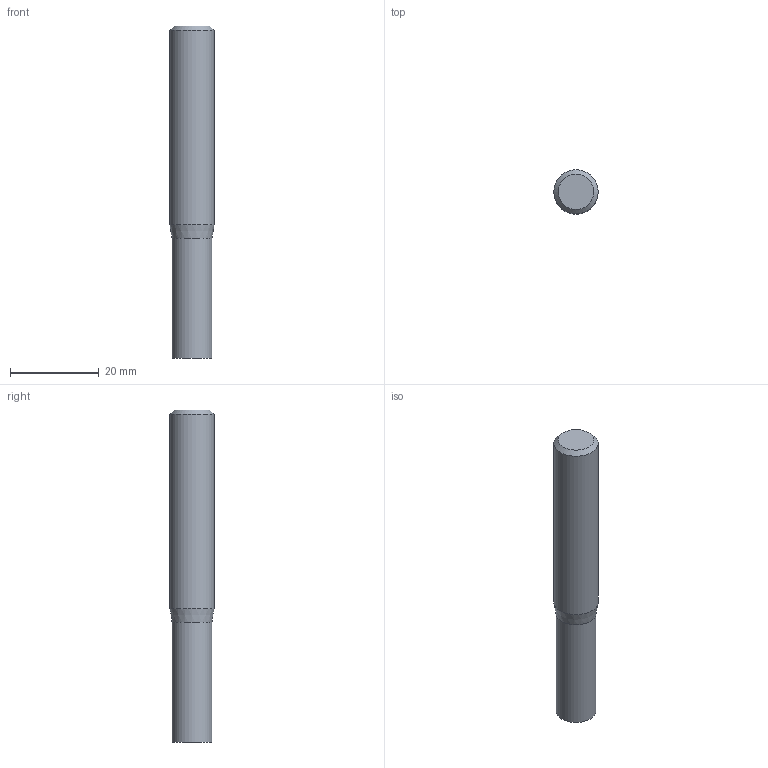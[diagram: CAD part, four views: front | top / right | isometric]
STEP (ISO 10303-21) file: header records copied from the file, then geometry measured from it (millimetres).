
FILE_DESCRIPTION((''),'2;1');
FILE_NAME('C:\Users\nsx150\AppData\Local\Temp\Mastercam 2021\W9Z147XDNF\TEMP.step','2021-04-08T14:42:39',(''),(''),'STEP Write','Mastercam 2021 ... CNC Software, Inc.','');
FILE_SCHEMA(('AUTOMOTIVE_DESIGN'));
Length unit declared in the file: millimetre
Products named in the file (1): None
Bounding box: 10 x 10 x 75 mm (x, y, z)
Volume: 5448.9 mm3; surface area: 2517.3 mm2
Topology: 2 solids, 2 shells, 8 faces, 10 edges, 6 vertices
Faces by surface type: plane 4, cylinder 2, cone 2
Full cylindrical faces by diameter (mm): 9 x1, 10 x1
Entity records: 190 total; most frequent: DIRECTION 32, CARTESIAN_POINT 22, AXIS2_PLACEMENT_3D 16, ORIENTED_EDGE 12, EDGE_LOOP 12, STYLED_ITEM 11, ADVANCED_FACE 8, VERTEX_POINT 6
